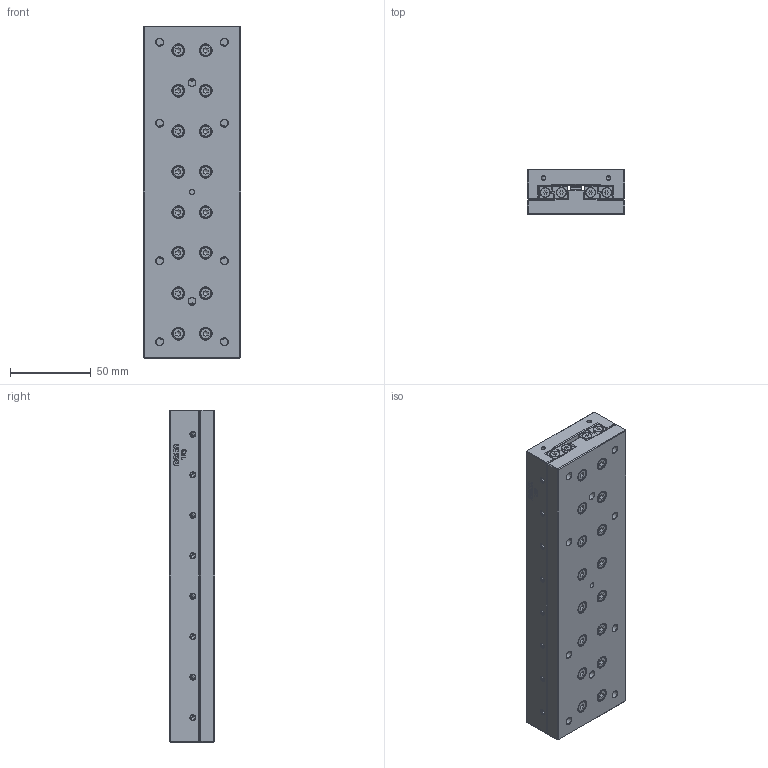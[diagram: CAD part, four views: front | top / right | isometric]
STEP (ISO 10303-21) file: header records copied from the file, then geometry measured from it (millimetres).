
FILE_DESCRIPTION(/* description */ ('Tavola TR3 L= 205 mm'),/* implementation_level */ '2;1');
FILE_NAME(/* name */ 'TR030205-00.stp',/* time_stamp */ '2024-02-07T10:29:24+01:00',/* author */ ('Rosa sistemi'),/* organization */ (''),/* preprocessor_version */ 'ST-DEVELOPER v20',/* originating_system */ 'Autodesk Inventor 2024',/* authorisation */ '');
FILE_SCHEMA (('AUTOMOTIVE_DESIGN { 1 0 10303 214 3 1 1 }'));
Products named in the file (2): TR030205-00; TR030205-00_1
Assembly tree (1 placements, depth 2):
  TR030205-00
    TR030205-00_1
Bounding box: 60 x 28 x 205 mm (x, y, z)
Volume: 313913.2 mm3; surface area: 97931.8 mm2
Topology: 12 solids, 12 shells, 1977 faces, 4995 edges, 3278 vertices
Faces by surface type: plane 1156, cylinder 313, cone 242, bspline 196, torus 70
Full cylindrical faces by diameter (mm): 0.929 x4, 1.161 x1, 2.459 x4, 2.554 x4, 3 x6, 3.1 x4, 3.192 x1, 3.242 x52, 4 x32, 4.5 x42, 5.7 x8, 6 x32, 7 x32, 7.5 x42
Entity records: 61958 total; most frequent: CARTESIAN_POINT 13644, ORIENTED_EDGE 9886, DIRECTION 8988, EDGE_CURVE 4943, VERTEX_POINT 3278, AXIS2_PLACEMENT_3D 3057, LINE 2874, VECTOR 2874
